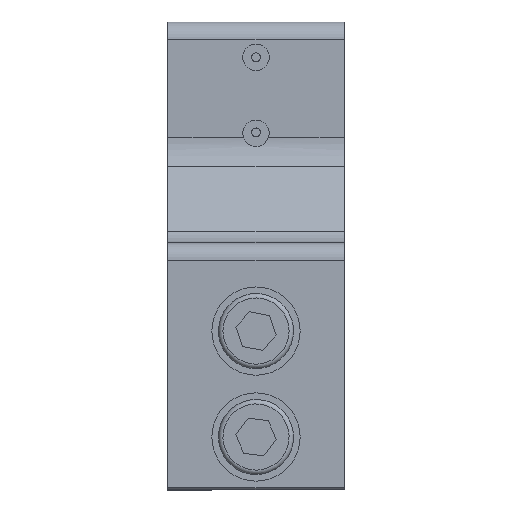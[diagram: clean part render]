
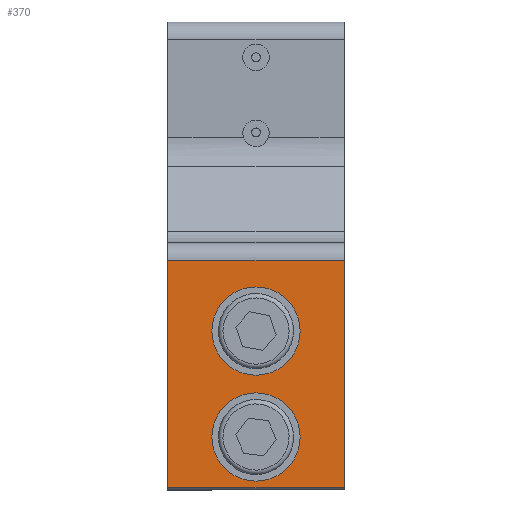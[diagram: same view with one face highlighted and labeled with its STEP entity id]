
A CAD part, front view. The second image highlights one B-rep face of the part: STEP entity #370.
In plain terms, the highlighted planar face has unit normal (0, -1, 0) as drawn and (1, 0, 0) by its records, which use the part's own axes.
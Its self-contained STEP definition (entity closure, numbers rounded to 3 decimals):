
#370=ADVANCED_FACE('',(#716,#717,#718),#719,.T.);
#716=FACE_BOUND('',#1064,.T.);
#717=FACE_BOUND('',#1065,.T.);
#718=FACE_OUTER_BOUND('',#1066,.T.);
#719=PLANE('',#1067);
#1064=EDGE_LOOP('',(#1688));
#1065=EDGE_LOOP('',(#1689));
#1066=EDGE_LOOP('',(#1690,#1691,#1692,#1693));
#1067=AXIS2_PLACEMENT_3D('',#1694,#1695,#1696);
#1688=ORIENTED_EDGE('',*,*,#2149,.T.);
#1689=ORIENTED_EDGE('',*,*,#2150,.T.);
#1690=ORIENTED_EDGE('',*,*,#2151,.F.);
#1691=ORIENTED_EDGE('',*,*,#2102,.T.);
#1692=ORIENTED_EDGE('',*,*,#2108,.T.);
#1693=ORIENTED_EDGE('',*,*,#2152,.T.);
#1694=CARTESIAN_POINT('',(9.26,20.0,-15.0));
#1695=DIRECTION('',(1.0,0.0,0.0));
#1696=DIRECTION('',(0.0,0.0,-1.0));
#2102=EDGE_CURVE('',#2482,#2480,#2483,.T.);
#2108=EDGE_CURVE('',#2480,#2489,#2490,.T.);
#2149=EDGE_CURVE('',#2542,#2542,#2543,.T.);
#2150=EDGE_CURVE('',#2544,#2544,#2545,.T.);
#2151=EDGE_CURVE('',#2482,#2546,#2547,.T.);
#2152=EDGE_CURVE('',#2489,#2546,#2548,.T.);
#2480=VERTEX_POINT('',#2979);
#2482=VERTEX_POINT('',#2982);
#2483=LINE('',#2983,#2984);
#2489=VERTEX_POINT('',#2993);
#2490=LINE('',#2994,#2995);
#2542=VERTEX_POINT('',#3073);
#2543=CIRCLE('',#3074,5.0);
#2544=VERTEX_POINT('',#3075);
#2545=CIRCLE('',#3076,5.0);
#2546=VERTEX_POINT('',#3077);
#2547=LINE('',#3078,#3079);
#2548=LINE('',#3080,#3081);
#2979=CARTESIAN_POINT('',(9.26,20.0,-12.75));
#2982=CARTESIAN_POINT('',(9.26,0.0,-12.75));
#2983=CARTESIAN_POINT('',(9.26,20.0,-12.75));
#2984=VECTOR('',#3403,1.0);
#2993=CARTESIAN_POINT('',(9.26,20.0,13.0));
#2994=CARTESIAN_POINT('',(9.26,20.0,-15.0));
#2995=VECTOR('',#3407,1.0);
#3073=CARTESIAN_POINT('',(9.26,15.0,5.0));
#3074=AXIS2_PLACEMENT_3D('',#3443,#3444,#3445);
#3075=CARTESIAN_POINT('',(9.26,15.0,-7.0));
#3076=AXIS2_PLACEMENT_3D('',#3446,#3447,#3448);
#3077=CARTESIAN_POINT('',(9.26,0.0,13.0));
#3078=CARTESIAN_POINT('',(9.26,0.0,-15.0));
#3079=VECTOR('',#3449,1.0);
#3080=CARTESIAN_POINT('',(9.26,20.0,13.0));
#3081=VECTOR('',#3450,1.0);
#3403=DIRECTION('',(0.0,1.0,0.0));
#3407=DIRECTION('',(0.0,0.0,1.0));
#3443=CARTESIAN_POINT('',(9.26,10.0,5.0));
#3444=DIRECTION('',(-1.0,0.,0.0));
#3445=DIRECTION('',(0.,1.0,0.0));
#3446=CARTESIAN_POINT('',(9.26,10.0,-7.0));
#3447=DIRECTION('',(-1.0,0.,0.0));
#3448=DIRECTION('',(0.,1.0,0.0));
#3449=DIRECTION('',(0.0,0.0,1.0));
#3450=DIRECTION('',(0.0,-1.0,0.0));
